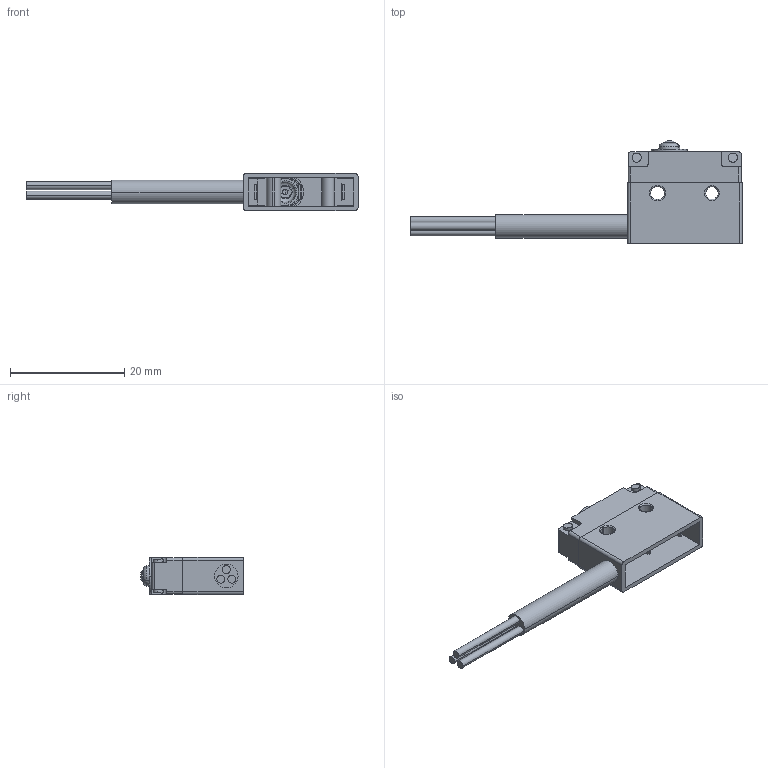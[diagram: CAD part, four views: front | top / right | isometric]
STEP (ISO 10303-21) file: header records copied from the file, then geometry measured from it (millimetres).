
FILE_DESCRIPTION (( 'STEP AP203' ), '1' );
FILE_NAME ('MP500-L00-C100.STEP', '2011-09-12T08:43:12', ( 'Acer' ), ( '' ), 'SwSTEP 2.0', 'SolidWorks 2008', '' );
FILE_SCHEMA (( 'CONFIG_CONTROL_DESIGN' ));
Length unit declared in the file: millimetre
Products named in the file (1): MP500-L00-C100
Bounding box: 58 x 18 x 6.5 mm (x, y, z)
Surface area: 2064.7 mm2 (no closed solid volume)
Topology: 0 solids, 8 shells, 124 faces, 391 edges, 281 vertices
Faces by surface type: plane 51, cylinder 47, torus 18, cone 6, sphere 2
Entity records: 4453 total; most frequent: CARTESIAN_POINT 833, DIRECTION 791, ORIENTED_EDGE 656, EDGE_CURVE 391, AXIS2_PLACEMENT_3D 287, VERTEX_POINT 281, VECTOR 217, LINE 217
